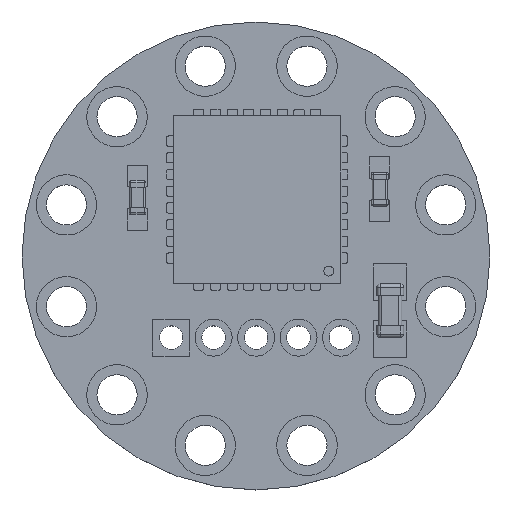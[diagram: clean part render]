
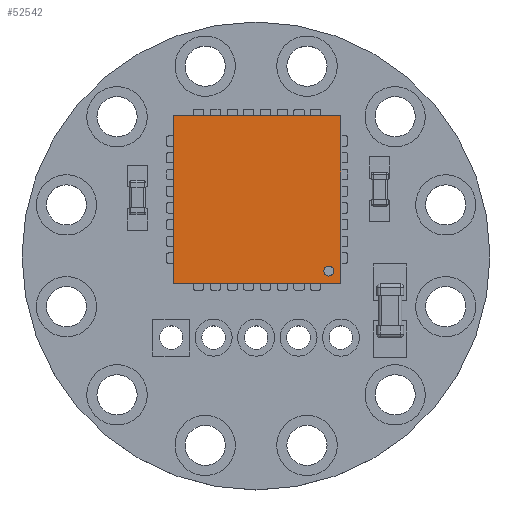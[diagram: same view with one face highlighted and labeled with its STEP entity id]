
A CAD part, top view. The second image highlights one B-rep face of the part: STEP entity #52542.
In plain terms, the highlighted planar face has unit normal (0, 0, 1).
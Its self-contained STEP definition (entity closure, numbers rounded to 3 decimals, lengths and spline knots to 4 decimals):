
#52428 = VERTEX_POINT('',#52429);
#52429 = CARTESIAN_POINT('',(23.1749,18.6917,1.595));
#52436 = CYLINDRICAL_SURFACE('',#52437,0.15);
#52437 = AXIS2_PLACEMENT_3D('',#52438,#52439,#52440);
#52438 = CARTESIAN_POINT('',(23.1749,18.5417,1.495));
#52439 = DIRECTION('',(0.,0.,1.));
#52440 = DIRECTION('',(0.,1.,0.));
#52448 = CYLINDRICAL_SURFACE('',#52449,0.15);
#52449 = AXIS2_PLACEMENT_3D('',#52450,#52451,#52452);
#52450 = CARTESIAN_POINT('',(23.1749,18.5417,1.495));
#52451 = DIRECTION('',(0.,0.,1.));
#52452 = DIRECTION('',(0.,1.,0.));
#52460 = EDGE_CURVE('',#52461,#52428,#52463,.T.);
#52461 = VERTEX_POINT('',#52462);
#52462 = CARTESIAN_POINT('',(23.1749,18.3917,1.595));
#52463 = SURFACE_CURVE('',#52464,(#52469,#52476),.PCURVE_S1.);
#52464 = CIRCLE('',#52465,0.15);
#52465 = AXIS2_PLACEMENT_3D('',#52466,#52467,#52468);
#52466 = CARTESIAN_POINT('',(23.1749,18.5417,1.595));
#52467 = DIRECTION('',(0.,-0.,1.));
#52468 = DIRECTION('',(0.,1.,0.));
#52469 = PCURVE('',#52436,#52470);
#52470 = DEFINITIONAL_REPRESENTATION('',(#52471),#52475);
#52471 = LINE('',#52472,#52473);
#52472 = CARTESIAN_POINT('',(0.,0.1));
#52473 = VECTOR('',#52474,1.);
#52474 = DIRECTION('',(1.,0.));
#52475 = ( GEOMETRIC_REPRESENTATION_CONTEXT(2) 
PARAMETRIC_REPRESENTATION_CONTEXT() REPRESENTATION_CONTEXT('2D SPACE',''
  ) );
#52476 = PCURVE('',#52477,#52482);
#52477 = PLANE('',#52478);
#52478 = AXIS2_PLACEMENT_3D('',#52479,#52480,#52481);
#52479 = CARTESIAN_POINT('',(21.0349,20.6817,1.595));
#52480 = DIRECTION('',(0.,0.,-1.));
#52481 = DIRECTION('',(-0.,-1.,0.));
#52482 = DEFINITIONAL_REPRESENTATION('',(#52483),#52491);
#52483 = ( BOUNDED_CURVE() B_SPLINE_CURVE(2,(#52484,#52485,#52486,#52487
    ,#52488,#52489,#52490),.UNSPECIFIED.,.T.,.F.) 
B_SPLINE_CURVE_WITH_KNOTS((1,2,2,2,2,1),(-2.0944,0.,
    2.0944,4.1888,6.2832,8.3776),
.UNSPECIFIED.) CURVE() GEOMETRIC_REPRESENTATION_ITEM() 
RATIONAL_B_SPLINE_CURVE((1.,0.5,1.,0.5,1.,0.5,1.)) REPRESENTATION_ITEM(
  '') );
#52484 = CARTESIAN_POINT('',(1.99,-2.14));
#52485 = CARTESIAN_POINT('',(1.99,-1.88));
#52486 = CARTESIAN_POINT('',(2.215,-2.01));
#52487 = CARTESIAN_POINT('',(2.44,-2.14));
#52488 = CARTESIAN_POINT('',(2.215,-2.27));
#52489 = CARTESIAN_POINT('',(1.99,-2.4));
#52490 = CARTESIAN_POINT('',(1.99,-2.14));
#52491 = ( GEOMETRIC_REPRESENTATION_CONTEXT(2) 
PARAMETRIC_REPRESENTATION_CONTEXT() REPRESENTATION_CONTEXT('2D SPACE',''
  ) );
#52542 = ADVANCED_FACE('',(#52543,#52572),#52477,.F.);
#52543 = FACE_BOUND('',#52544,.T.);
#52544 = EDGE_LOOP('',(#52545,#52571));
#52545 = ORIENTED_EDGE('',*,*,#52546,.F.);
#52546 = EDGE_CURVE('',#52428,#52461,#52547,.T.);
#52547 = SURFACE_CURVE('',#52548,(#52553,#52564),.PCURVE_S1.);
#52548 = CIRCLE('',#52549,0.15);
#52549 = AXIS2_PLACEMENT_3D('',#52550,#52551,#52552);
#52550 = CARTESIAN_POINT('',(23.1749,18.5417,1.595));
#52551 = DIRECTION('',(0.,-0.,1.));
#52552 = DIRECTION('',(0.,1.,0.));
#52553 = PCURVE('',#52477,#52554);
#52554 = DEFINITIONAL_REPRESENTATION('',(#52555),#52563);
#52555 = ( BOUNDED_CURVE() B_SPLINE_CURVE(2,(#52556,#52557,#52558,#52559
    ,#52560,#52561,#52562),.UNSPECIFIED.,.T.,.F.) 
B_SPLINE_CURVE_WITH_KNOTS((1,2,2,2,2,1),(-2.0944,0.,
    2.0944,4.1888,6.2832,8.3776),
.UNSPECIFIED.) CURVE() GEOMETRIC_REPRESENTATION_ITEM() 
RATIONAL_B_SPLINE_CURVE((1.,0.5,1.,0.5,1.,0.5,1.)) REPRESENTATION_ITEM(
  '') );
#52556 = CARTESIAN_POINT('',(1.99,-2.14));
#52557 = CARTESIAN_POINT('',(1.99,-1.88));
#52558 = CARTESIAN_POINT('',(2.215,-2.01));
#52559 = CARTESIAN_POINT('',(2.44,-2.14));
#52560 = CARTESIAN_POINT('',(2.215,-2.27));
#52561 = CARTESIAN_POINT('',(1.99,-2.4));
#52562 = CARTESIAN_POINT('',(1.99,-2.14));
#52563 = ( GEOMETRIC_REPRESENTATION_CONTEXT(2) 
PARAMETRIC_REPRESENTATION_CONTEXT() REPRESENTATION_CONTEXT('2D SPACE',''
  ) );
#52564 = PCURVE('',#52448,#52565);
#52565 = DEFINITIONAL_REPRESENTATION('',(#52566),#52570);
#52566 = LINE('',#52567,#52568);
#52567 = CARTESIAN_POINT('',(0.,0.1));
#52568 = VECTOR('',#52569,1.);
#52569 = DIRECTION('',(1.,0.));
#52570 = ( GEOMETRIC_REPRESENTATION_CONTEXT(2) 
PARAMETRIC_REPRESENTATION_CONTEXT() REPRESENTATION_CONTEXT('2D SPACE',''
  ) );
#52571 = ORIENTED_EDGE('',*,*,#52460,.F.);
#52572 = FACE_BOUND('',#52573,.T.);
#52573 = EDGE_LOOP('',(#52574,#52604,#52632,#52660));
#52574 = ORIENTED_EDGE('',*,*,#52575,.F.);
#52575 = EDGE_CURVE('',#52576,#52578,#52580,.T.);
#52576 = VERTEX_POINT('',#52577);
#52577 = CARTESIAN_POINT('',(23.5349,23.1817,1.595));
#52578 = VERTEX_POINT('',#52579);
#52579 = CARTESIAN_POINT('',(23.5349,18.1817,1.595));
#52580 = SURFACE_CURVE('',#52581,(#52585,#52592),.PCURVE_S1.);
#52581 = LINE('',#52582,#52583);
#52582 = CARTESIAN_POINT('',(23.5349,20.6817,1.595));
#52583 = VECTOR('',#52584,1.);
#52584 = DIRECTION('',(-0.,-1.,0.));
#52585 = PCURVE('',#52477,#52586);
#52586 = DEFINITIONAL_REPRESENTATION('',(#52587),#52591);
#52587 = LINE('',#52588,#52589);
#52588 = CARTESIAN_POINT('',(-0.,-2.5));
#52589 = VECTOR('',#52590,1.);
#52590 = DIRECTION('',(1.,0.));
#52591 = ( GEOMETRIC_REPRESENTATION_CONTEXT(2) 
PARAMETRIC_REPRESENTATION_CONTEXT() REPRESENTATION_CONTEXT('2D SPACE',''
  ) );
#52592 = PCURVE('',#52593,#52598);
#52593 = PLANE('',#52594);
#52594 = AXIS2_PLACEMENT_3D('',#52595,#52596,#52597);
#52595 = CARTESIAN_POINT('',(23.5349,23.1817,0.645));
#52596 = DIRECTION('',(1.,0.,0.));
#52597 = DIRECTION('',(0.,1.,0.));
#52598 = DEFINITIONAL_REPRESENTATION('',(#52599),#52603);
#52599 = LINE('',#52600,#52601);
#52600 = CARTESIAN_POINT('',(-2.5,0.95));
#52601 = VECTOR('',#52602,1.);
#52602 = DIRECTION('',(-1.,0.));
#52603 = ( GEOMETRIC_REPRESENTATION_CONTEXT(2) 
PARAMETRIC_REPRESENTATION_CONTEXT() REPRESENTATION_CONTEXT('2D SPACE',''
  ) );
#52604 = ORIENTED_EDGE('',*,*,#52605,.F.);
#52605 = EDGE_CURVE('',#52606,#52576,#52608,.T.);
#52606 = VERTEX_POINT('',#52607);
#52607 = CARTESIAN_POINT('',(18.5349,23.1817,1.595));
#52608 = SURFACE_CURVE('',#52609,(#52613,#52620),.PCURVE_S1.);
#52609 = LINE('',#52610,#52611);
#52610 = CARTESIAN_POINT('',(21.0349,23.1817,1.595));
#52611 = VECTOR('',#52612,1.);
#52612 = DIRECTION('',(1.,-0.,-0.));
#52613 = PCURVE('',#52477,#52614);
#52614 = DEFINITIONAL_REPRESENTATION('',(#52615),#52619);
#52615 = LINE('',#52616,#52617);
#52616 = CARTESIAN_POINT('',(-2.5,0.));
#52617 = VECTOR('',#52618,1.);
#52618 = DIRECTION('',(0.,-1.));
#52619 = ( GEOMETRIC_REPRESENTATION_CONTEXT(2) 
PARAMETRIC_REPRESENTATION_CONTEXT() REPRESENTATION_CONTEXT('2D SPACE',''
  ) );
#52620 = PCURVE('',#52621,#52626);
#52621 = PLANE('',#52622);
#52622 = AXIS2_PLACEMENT_3D('',#52623,#52624,#52625);
#52623 = CARTESIAN_POINT('',(23.5349,23.1817,0.645));
#52624 = DIRECTION('',(0.,1.,0.));
#52625 = DIRECTION('',(-1.,0.,0.));
#52626 = DEFINITIONAL_REPRESENTATION('',(#52627),#52631);
#52627 = LINE('',#52628,#52629);
#52628 = CARTESIAN_POINT('',(2.5,0.95));
#52629 = VECTOR('',#52630,1.);
#52630 = DIRECTION('',(-1.,0.));
#52631 = ( GEOMETRIC_REPRESENTATION_CONTEXT(2) 
PARAMETRIC_REPRESENTATION_CONTEXT() REPRESENTATION_CONTEXT('2D SPACE',''
  ) );
#52632 = ORIENTED_EDGE('',*,*,#52633,.F.);
#52633 = EDGE_CURVE('',#52634,#52606,#52636,.T.);
#52634 = VERTEX_POINT('',#52635);
#52635 = CARTESIAN_POINT('',(18.5349,18.1817,1.595));
#52636 = SURFACE_CURVE('',#52637,(#52641,#52648),.PCURVE_S1.);
#52637 = LINE('',#52638,#52639);
#52638 = CARTESIAN_POINT('',(18.5349,20.6817,1.595));
#52639 = VECTOR('',#52640,1.);
#52640 = DIRECTION('',(0.,1.,0.));
#52641 = PCURVE('',#52477,#52642);
#52642 = DEFINITIONAL_REPRESENTATION('',(#52643),#52647);
#52643 = LINE('',#52644,#52645);
#52644 = CARTESIAN_POINT('',(0.,2.5));
#52645 = VECTOR('',#52646,1.);
#52646 = DIRECTION('',(-1.,0.));
#52647 = ( GEOMETRIC_REPRESENTATION_CONTEXT(2) 
PARAMETRIC_REPRESENTATION_CONTEXT() REPRESENTATION_CONTEXT('2D SPACE',''
  ) );
#52648 = PCURVE('',#52649,#52654);
#52649 = PLANE('',#52650);
#52650 = AXIS2_PLACEMENT_3D('',#52651,#52652,#52653);
#52651 = CARTESIAN_POINT('',(18.5349,23.1817,0.645));
#52652 = DIRECTION('',(-1.,0.,0.));
#52653 = DIRECTION('',(0.,-1.,0.));
#52654 = DEFINITIONAL_REPRESENTATION('',(#52655),#52659);
#52655 = LINE('',#52656,#52657);
#52656 = CARTESIAN_POINT('',(2.5,0.95));
#52657 = VECTOR('',#52658,1.);
#52658 = DIRECTION('',(-1.,0.));
#52659 = ( GEOMETRIC_REPRESENTATION_CONTEXT(2) 
PARAMETRIC_REPRESENTATION_CONTEXT() REPRESENTATION_CONTEXT('2D SPACE',''
  ) );
#52660 = ORIENTED_EDGE('',*,*,#52661,.F.);
#52661 = EDGE_CURVE('',#52578,#52634,#52662,.T.);
#52662 = SURFACE_CURVE('',#52663,(#52667,#52674),.PCURVE_S1.);
#52663 = LINE('',#52664,#52665);
#52664 = CARTESIAN_POINT('',(21.0349,18.1817,1.595));
#52665 = VECTOR('',#52666,1.);
#52666 = DIRECTION('',(-1.,0.,0.));
#52667 = PCURVE('',#52477,#52668);
#52668 = DEFINITIONAL_REPRESENTATION('',(#52669),#52673);
#52669 = LINE('',#52670,#52671);
#52670 = CARTESIAN_POINT('',(2.5,0.));
#52671 = VECTOR('',#52672,1.);
#52672 = DIRECTION('',(0.,1.));
#52673 = ( GEOMETRIC_REPRESENTATION_CONTEXT(2) 
PARAMETRIC_REPRESENTATION_CONTEXT() REPRESENTATION_CONTEXT('2D SPACE',''
  ) );
#52674 = PCURVE('',#52675,#52680);
#52675 = PLANE('',#52676);
#52676 = AXIS2_PLACEMENT_3D('',#52677,#52678,#52679);
#52677 = CARTESIAN_POINT('',(23.5349,18.1817,0.645));
#52678 = DIRECTION('',(0.,-1.,0.));
#52679 = DIRECTION('',(1.,0.,0.));
#52680 = DEFINITIONAL_REPRESENTATION('',(#52681),#52685);
#52681 = LINE('',#52682,#52683);
#52682 = CARTESIAN_POINT('',(-2.5,0.95));
#52683 = VECTOR('',#52684,1.);
#52684 = DIRECTION('',(-1.,0.));
#52685 = ( GEOMETRIC_REPRESENTATION_CONTEXT(2) 
PARAMETRIC_REPRESENTATION_CONTEXT() REPRESENTATION_CONTEXT('2D SPACE',''
  ) );
